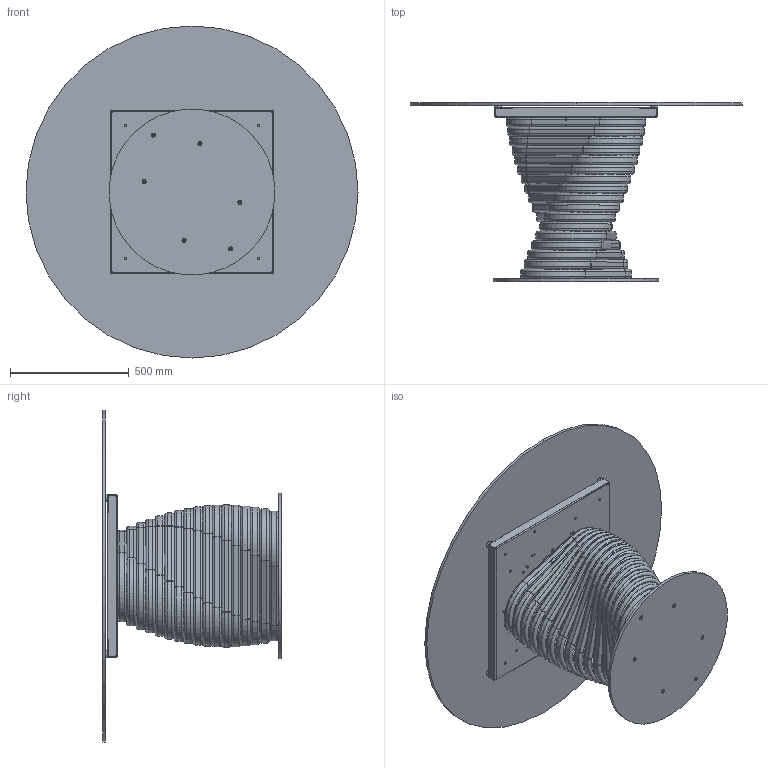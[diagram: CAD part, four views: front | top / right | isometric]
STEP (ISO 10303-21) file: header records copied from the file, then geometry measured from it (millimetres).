
FILE_DESCRIPTION (( 'STEP AP203' ), '1' );
FILE_NAME ('RO06G.STEP', '2024-08-07T13:07:06', ( '' ), ( '' ), 'SwSTEP 2.0', 'SolidWorks 2022', '' );
FILE_SCHEMA (( 'CONFIG_CONTROL_DESIGN' ));
Length unit declared in the file: millimetre
Products named in the file (15): ROBX00000INF-00-Anello rotolo INFERIORE_Default<A macchina>; rondella M8_8X24; TTAV0801-02-TELAIO UNIVERSALE TONDO-VASSOIO; ROBX00000MED-00-Anello rotolo MEDIO_Default<A macchina>; M8xXXmm_hex_M8X20mm; ROBX00000-00-ROTOLO BASE 17 ANELLI; COLLO TELAIO UNIVERSALE TTAV0801 CON FERRAMENTA_MTG TOP CRISTALLO VERNICIATO-CERAMICA; TTAV0801-02-TELAIO UNIVERSALE TONDO; ROBX00000SUP-00-Anello rotolo SUPERIORE_Default<A macchina>; 434070-00-PIEDINO TPV GOMMA NERO D. 30x8max18_filo estetico; TTAV0801 TELAIO UNIVERSALE TONDO-PIASTRINA; ROB200000-00-PIASTRA BASE_Ø70cm; M8xXXmm_M8x20mm; RO06G; C1XCRMXX-00-piani Rotondi Cristallo_C06 D.140cm
Assembly tree (45 placements, depth 4):
  RO06G
    ROB200000-00-PIASTRA BASE_Ø70cm
    ROBX00000-00-ROTOLO BASE 17 ANELLI
      ROBX00000INF-00-Anello rotolo INFERIORE_Default<A macchina>
      ROBX00000MED-00-Anello rotolo MEDIO_Default<A macchina>  x15
      ROBX00000SUP-00-Anello rotolo SUPERIORE_Default<A macchina>
    M8xXXmm_hex_M8X20mm  x6
    COLLO TELAIO UNIVERSALE TTAV0801 CON FERRAMENTA_MTG TOP CRISTALLO VERNICIATO-CERAMICA
      TTAV0801-02-TELAIO UNIVERSALE TONDO
        TTAV0801-02-TELAIO UNIVERSALE TONDO-VASSOIO
        TTAV0801 TELAIO UNIVERSALE TONDO-PIASTRINA  x4
      434070-00-PIEDINO TPV GOMMA NERO D. 30x8max18_filo estetico  x4
    rondella M8_8X24  x4
    M8xXXmm_M8x20mm  x4
    C1XCRMXX-00-piani Rotondi Cristallo_C06 D.140cm
Bounding box: 1400 x 754 x 1400 mm (x, y, z)
Volume: 30299527.5 mm3; surface area: 10016789.9 mm2
Topology: 97 solids, 97 shells, 1632 faces, 4000 edges, 2542 vertices
Faces by surface type: plane 694, cylinder 626, torus 212, cone 100
Entity records: 22537 total; most frequent: CARTESIAN_POINT 5008, DIRECTION 3284, ORIENTED_EDGE 3070, EDGE_CURVE 1535, AXIS2_PLACEMENT_3D 1209, VERTEX_POINT 989, LINE 866, VECTOR 866
